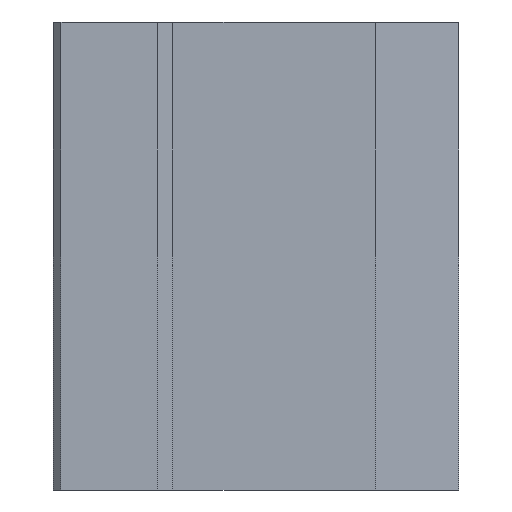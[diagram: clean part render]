
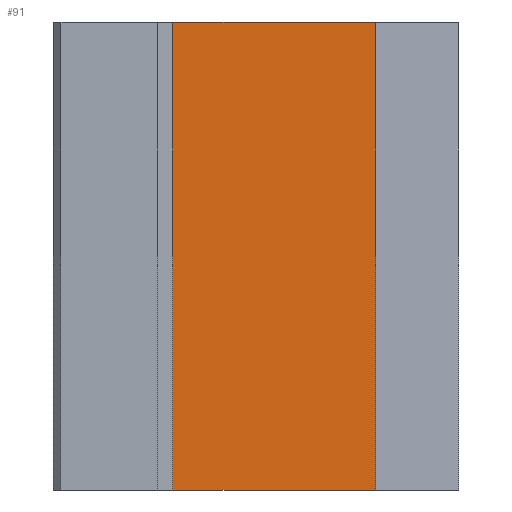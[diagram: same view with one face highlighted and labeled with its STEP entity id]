
A CAD part, left-side view. The second image highlights one B-rep face of the part: STEP entity #91.
In plain terms, the highlighted planar face has unit normal (-1, 0, 0).
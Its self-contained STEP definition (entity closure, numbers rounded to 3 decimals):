
#91=ADVANCED_FACE('',(#179),#180,.F.);
#179=FACE_OUTER_BOUND('',#332,.T.);
#180=PLANE('',#333);
#332=EDGE_LOOP('',(#596,#597,#598,#599));
#333=AXIS2_PLACEMENT_3D('',#600,#601,#602);
#596=ORIENTED_EDGE('',*,*,#928,.T.);
#597=ORIENTED_EDGE('',*,*,#970,.F.);
#598=ORIENTED_EDGE('',*,*,#938,.F.);
#599=ORIENTED_EDGE('',*,*,#971,.T.);
#600=CARTESIAN_POINT('',(-48.0,17.0,45.0));
#601=DIRECTION('',(1.0,0.0,0.0));
#602=DIRECTION('',(0.0,1.0,0.0));
#928=EDGE_CURVE('',#1093,#1091,#1094,.T.);
#938=EDGE_CURVE('',#1111,#1113,#1114,.T.);
#970=EDGE_CURVE('',#1113,#1091,#1164,.T.);
#971=EDGE_CURVE('',#1111,#1093,#1165,.T.);
#1091=VERTEX_POINT('',#1343);
#1093=VERTEX_POINT('',#1346);
#1094=LINE('',#1347,#1348);
#1111=VERTEX_POINT('',#1373);
#1113=VERTEX_POINT('',#1376);
#1114=LINE('',#1377,#1378);
#1164=LINE('',#1452,#1453);
#1165=LINE('',#1454,#1455);
#1343=CARTESIAN_POINT('',(-48.0,-22.0,-45.0));
#1346=CARTESIAN_POINT('',(-48.0,17.0,-45.0));
#1347=CARTESIAN_POINT('',(-48.0,17.0,-45.0));
#1348=VECTOR('',#1646,1.0);
#1373=CARTESIAN_POINT('',(-48.0,17.0,45.0));
#1376=CARTESIAN_POINT('',(-48.0,-22.0,45.0));
#1377=CARTESIAN_POINT('',(-48.0,17.0,45.0));
#1378=VECTOR('',#1656,1.0);
#1452=CARTESIAN_POINT('',(-48.0,-22.0,45.0));
#1453=VECTOR('',#1702,1.0);
#1454=CARTESIAN_POINT('',(-48.0,17.0,45.0));
#1455=VECTOR('',#1703,1.0);
#1646=DIRECTION('',(0.0,-1.0,0.0));
#1656=DIRECTION('',(0.0,-1.0,0.0));
#1702=DIRECTION('',(0.0,0.0,-1.0));
#1703=DIRECTION('',(0.0,0.0,-1.0));
